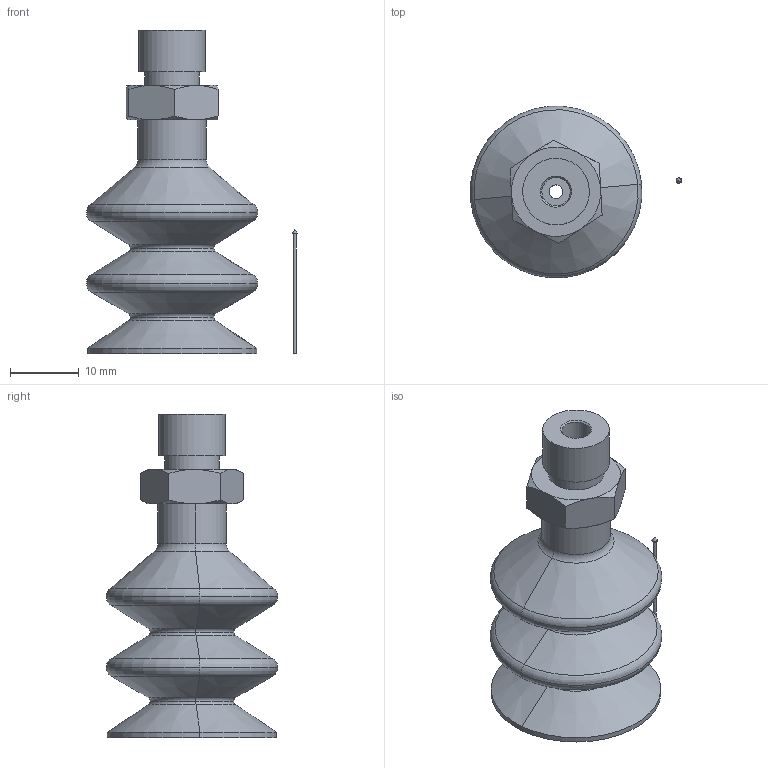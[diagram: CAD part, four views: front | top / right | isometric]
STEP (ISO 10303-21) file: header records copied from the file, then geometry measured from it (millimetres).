
FILE_DESCRIPTION(('STEP AP214'),'1');
FILE_NAME('KIT.08.32.D25.9.stp','2019-05-28T06:52:03',(' '),(' '),'Spatial InterOp 3D',' ',' ');
FILE_SCHEMA(('AUTOMOTIVE_DESIGN { 1 0 10303 214 1 1 1 1 }'));
Length unit declared in the file: millimetre
Products named in the file (5): KIT.08.32.D25.9; CA.08.09.009; CA.08.32.D25
Assembly tree (4 placements, depth 3):
  KIT.08.32.D25.9
    CA.08.09.009
    (unnamed)
      CA.08.32.D25
      CA.08.32.D25
Bounding box: 30.73 x 24.92 x 47 mm (x, y, z)
Volume: 9279.6 mm3; surface area: 4963.9 mm2
Topology: 3 solids, 3 shells, 83 faces, 167 edges, 98 vertices
Faces by surface type: cone 29, plane 20, torus 18, cylinder 16
Full cylindrical faces by diameter (mm): 0.4 x1, 2 x1, 4.134 x1, 4.5 x1, 8 x1, 9.7 x1
Entity records: 2898 total; most frequent: CARTESIAN_POINT 430, DIRECTION 404, ORIENTED_EDGE 302, AXIS2_PLACEMENT_3D 188, EDGE_CURVE 151, EDGE_LOOP 106, CIRCLE 99, VERTEX_POINT 94
